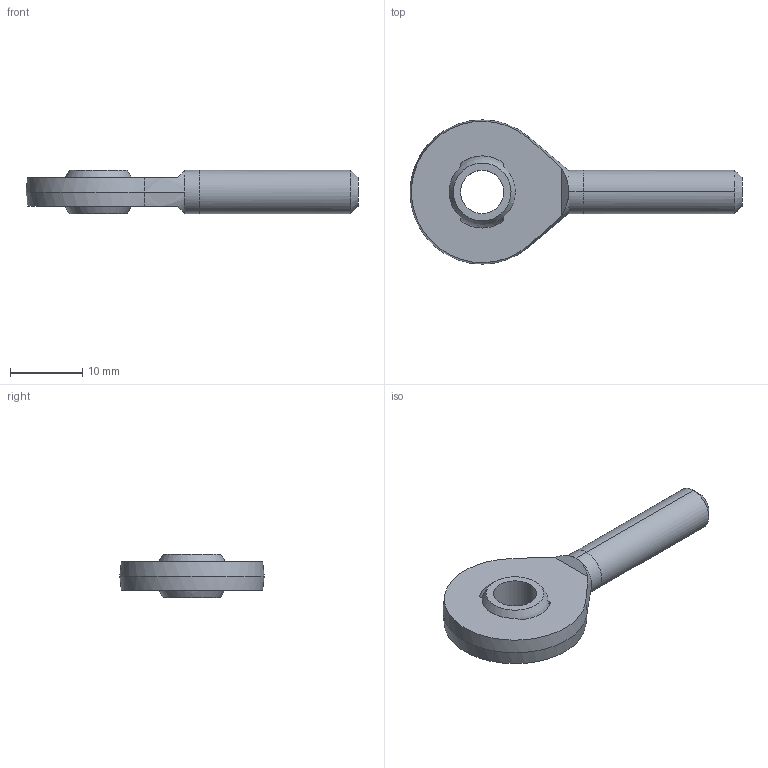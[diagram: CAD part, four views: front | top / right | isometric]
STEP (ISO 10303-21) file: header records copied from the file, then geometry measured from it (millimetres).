
FILE_DESCRIPTION (( 'STEP AP203' ), '1' );
FILE_NAME ('65860.W0006.step', '2014-02-06T11:43:08', ( 'User' ), ( '' ), 'SwSTEP 2.0', 'SolidWorks 2009', '' );
FILE_SCHEMA (( 'CONFIG_CONTROL_DESIGN' ));
Length unit declared in the file: millimetre
Products named in the file (3): Part1_65860.W0006; Part2_65860.W0006; 65860.W0006
Assembly tree (2 placements, depth 2):
  65860.W0006
    Part1_65860.W0006
    Part2_65860.W0006
Bounding box: 46 x 20 x 6 mm (x, y, z)
Volume: 1939 mm3; surface area: 1688.4 mm2
Topology: 2 solids, 2 shells, 35 faces, 82 edges, 51 vertices
Faces by surface type: plane 15, sphere 8, cylinder 8, cone 4
Entity records: 1357 total; most frequent: CARTESIAN_POINT 231, DIRECTION 196, ORIENTED_EDGE 160, AXIS2_PLACEMENT_3D 84, EDGE_CURVE 80, VERTEX_POINT 51, CIRCLE 44, EDGE_LOOP 41
